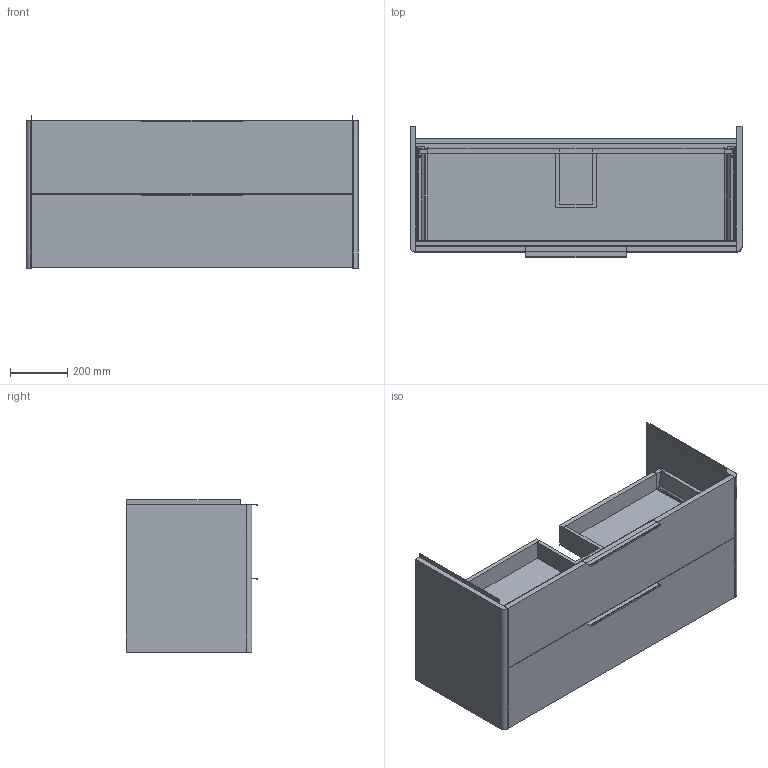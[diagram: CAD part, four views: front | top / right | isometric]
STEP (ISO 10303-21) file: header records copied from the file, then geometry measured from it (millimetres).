
FILE_DESCRIPTION(/* description */ (''),/* implementation_level */ '2;1');
FILE_NAME(/* name */ '3D63BF~1',/* time_stamp */ '2018-05-07T13:28:33+02:00',/* author */ (''),/* organization */ (''),/* preprocessor_version */ 'ST-DEVELOPER v15',/* originating_system */ '',/* authorisation */ '');
FILE_SCHEMA (('AUTOMOTIVE_DESIGN'));
Length unit declared in the file: millimetre
Products named in the file (23): Document; 350-84_MIR6; 350-84_1_MIR6; 350-84_2_MIR6; 350-84_3_MIR6; 350-84; 350-84_1; 350-84_2; 350-84_3; maniglia inferiore; Maniglia superiore; Frontale cassetto inferiore; Retro_cassetto inferiore; Fascia rialzo; Retro cassetto superiore; Fondo cassetto inferiore; Fondo cassetto superiore; Fondo mobile; Fianco dx; Fianco sx; Catena inferiore; Frontale cassetto superiore; Catena_superiore
Assembly tree (24 placements, depth 3):
  Document
    350-84_MIR6  x2
      350-84_1_MIR6
      350-84_2_MIR6
      350-84_3_MIR6
    350-84  x2
      350-84_1
      350-84_2
      350-84_3
    maniglia inferiore
    Maniglia superiore
    Frontale cassetto inferiore
    Retro_cassetto inferiore
    Fascia rialzo
    Retro cassetto superiore
    Fondo cassetto inferiore
    Fondo cassetto superiore
    Fondo mobile
    Fianco dx
    Fianco sx
    Catena inferiore
    Frontale cassetto superiore
    Catena_superiore
Bounding box: 1159 x 458.1 x 531 mm (x, y, z)
Volume: 45046531.9 mm3; surface area: 6291033.3 mm2
Topology: 28 solids, 28 shells, 1055 faces, 3161 edges, 2198 vertices
Faces by surface type: plane 776, bspline 279
Entity records: 19884 total; most frequent: CARTESIAN_POINT 7915, ORIENTED_EDGE 3490, EDGE_CURVE 1745, B_SPLINE_CURVE_WITH_KNOTS 1287, VERTEX_POINT 1214, EDGE_LOOP 695, ADVANCED_FACE 597, FACE_OUTER_BOUND 597
